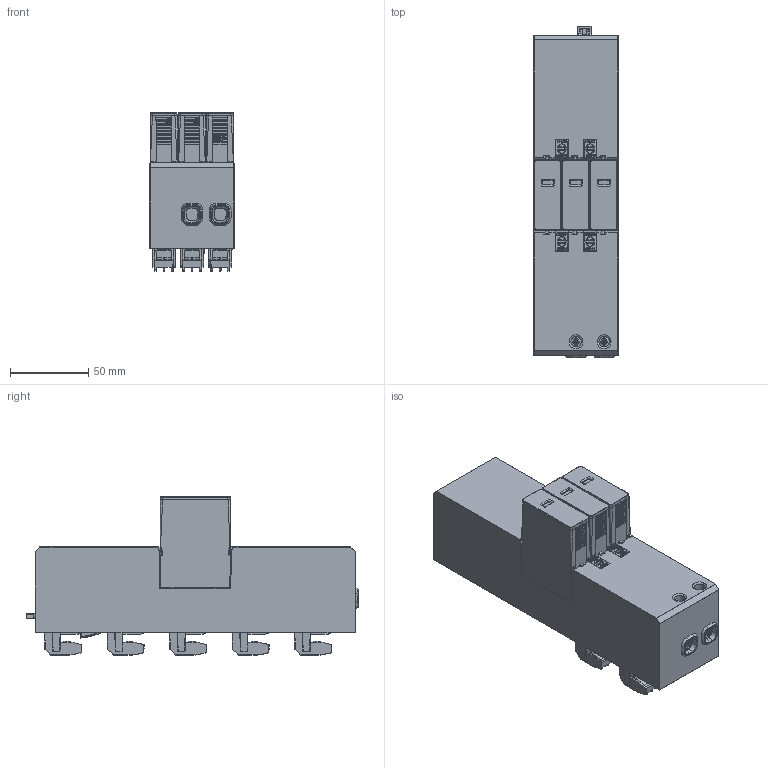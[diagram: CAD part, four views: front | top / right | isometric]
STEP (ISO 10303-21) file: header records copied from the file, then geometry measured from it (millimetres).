
FILE_DESCRIPTION(('STEP AP214'),'1');
FILE_NAME('FLP-ZP-xxx-VBH_3+1_oem.stp','2020-02-11T15:09:43',('martin.cadek'),('TransMagic, Inc.'),'TMR12sp2','TransMagic R12',' ');
FILE_SCHEMA(('AUTOMOTIVE_DESIGN'));
Length unit declared in the file: inch
Products named in the file (17): ASSEM1
Assembly tree (34 placements, depth 2):
  (unnamed)
    ASSEM1
    (unnamed)
    (unnamed)  x2
    (unnamed)  x2
    (unnamed)
    (unnamed)  x3
    (unnamed)  x3
    (unnamed)  x4
    (unnamed)
    (unnamed)  x2
    (unnamed)
    (unnamed)  x2
    (unnamed)
    (unnamed)  x3
    (unnamed)  x2
    (unnamed)  x5
Bounding box: 53.8 x 212.43 x 101.46 mm (x, y, z)
Volume: 152045.8 mm3; surface area: 250366.9 mm2
Topology: 34 solids, 34 shells, 8687 faces, 23010 edges, 14181 vertices
Faces by surface type: plane 4966, cylinder 2096, bspline 519, cone 436, sphere 425, torus 243, extrusion 2
Entity records: 313413 total; most frequent: CARTESIAN_POINT 46222, ORIENTED_EDGE 33394, DIRECTION 31667, STYLED_ITEM 18293, PRESENTATION_STYLE_ASSIGNMENT 18293, COLOUR_RGB 18293, EDGE_CURVE 16697, VECTOR 12491
